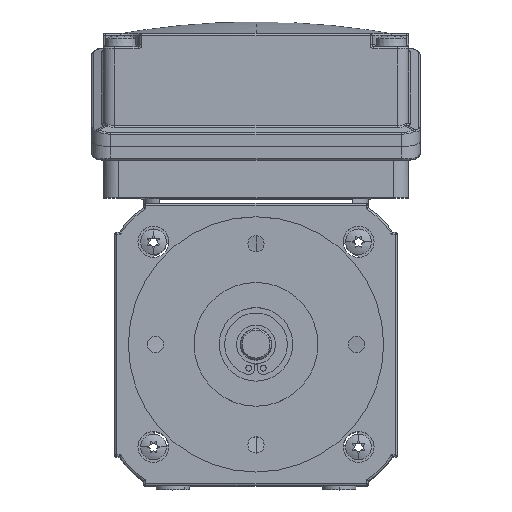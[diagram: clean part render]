
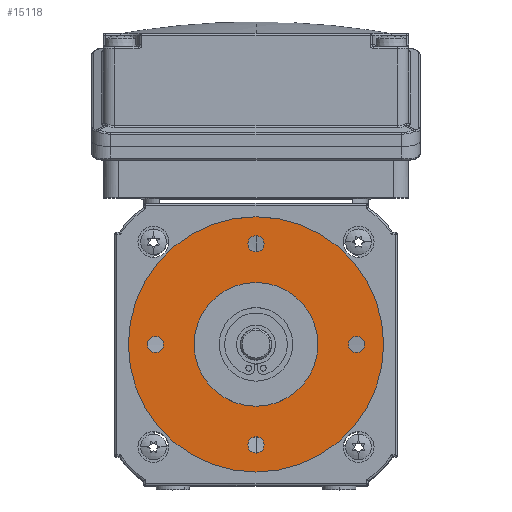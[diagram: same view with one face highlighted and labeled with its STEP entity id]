
A CAD part, top view. The second image highlights one B-rep face of the part: STEP entity #15118.
In plain terms, the highlighted planar face has unit normal (0, 0, 1).
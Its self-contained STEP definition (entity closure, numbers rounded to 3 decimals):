
#3206 = AXIS2_PLACEMENT_3D ( 'NONE', #29598, #29599, #29600 ) ;
#3601 = ORIENTED_EDGE ( 'NONE', *, *, #27813, .F. ) ;
#3603 = ORIENTED_EDGE ( 'NONE', *, *, #27755, .T. ) ;
#3604 = ORIENTED_EDGE ( 'NONE', *, *, #16355, .T. ) ;
#3606 = ORIENTED_EDGE ( 'NONE', *, *, #16374, .T. ) ;
#3608 = ORIENTED_EDGE ( 'NONE', *, *, #27773, .F. ) ;
#4960 = CARTESIAN_POINT ( 'NONE',  ( 23.9, 0., 8. ) ) ;
#4962 = CARTESIAN_POINT ( 'NONE',  ( -28.1, 0., 8. ) ) ;
#4963 = CARTESIAN_POINT ( 'NONE',  ( -23.9, 0., 8. ) ) ;
#5003 = CARTESIAN_POINT ( 'NONE',  ( 28.1, 0., 8. ) ) ;
#5014 = CARTESIAN_POINT ( 'NONE',  ( 33., 0., 8. ) ) ;
#5031 = CARTESIAN_POINT ( 'NONE',  ( 2.1, -26., 8. ) ) ;
#5032 = CARTESIAN_POINT ( 'NONE',  ( -2.1, -26., 8. ) ) ;
#5033 = CARTESIAN_POINT ( 'NONE',  ( -33., 0., 8. ) ) ;
#5037 = CARTESIAN_POINT ( 'NONE',  ( -2.1, 26., 8. ) ) ;
#5039 = CARTESIAN_POINT ( 'NONE',  ( 16., 0., 8. ) ) ;
#5040 = CARTESIAN_POINT ( 'NONE',  ( 2.1, 26., 8. ) ) ;
#5044 = CARTESIAN_POINT ( 'NONE',  ( -16., 0., 8. ) ) ;
#6144 = CARTESIAN_POINT ( 'NONE',  ( 0., 26., 8. ) ) ;
#6145 = DIRECTION ( 'NONE',  ( 0., 0., 1. ) ) ;
#6146 = DIRECTION ( 'NONE',  ( 1., 0., 0. ) ) ;
#6228 = CARTESIAN_POINT ( 'NONE',  ( -26., 0., 8. ) ) ;
#6229 = DIRECTION ( 'NONE',  ( 0., 0., 1. ) ) ;
#6230 = DIRECTION ( 'NONE',  ( 1., 0., 0. ) ) ;
#7848 = AXIS2_PLACEMENT_3D ( 'NONE', #6144, #6145, #6146 ) ;
#7861 = AXIS2_PLACEMENT_3D ( 'NONE', #6228, #6229, #6230 ) ;
#7869 = AXIS2_PLACEMENT_3D ( 'NONE', #22060, #22062, #22064 ) ;
#7876 = AXIS2_PLACEMENT_3D ( 'NONE', #22118, #22120, #22122 ) ;
#7882 = AXIS2_PLACEMENT_3D ( 'NONE', #22220, #22221, #22223 ) ;
#7885 = AXIS2_PLACEMENT_3D ( 'NONE', #22256, #22257, #22259 ) ;
#7895 = AXIS2_PLACEMENT_3D ( 'NONE', #22339, #22340, #22341 ) ;
#7916 = AXIS2_PLACEMENT_3D ( 'NONE', #22517, #22519, #22521 ) ;
#7930 = AXIS2_PLACEMENT_3D ( 'NONE', #22657, #22659, #22661 ) ;
#8128 = VERTEX_POINT ( 'NONE', #4960 ) ;
#8129 = VERTEX_POINT ( 'NONE', #4962 ) ;
#8130 = VERTEX_POINT ( 'NONE', #4963 ) ;
#8183 = VERTEX_POINT ( 'NONE', #5003 ) ;
#8198 = VERTEX_POINT ( 'NONE', #5014 ) ;
#8221 = VERTEX_POINT ( 'NONE', #5031 ) ;
#8223 = VERTEX_POINT ( 'NONE', #5032 ) ;
#8224 = VERTEX_POINT ( 'NONE', #5033 ) ;
#8228 = VERTEX_POINT ( 'NONE', #5037 ) ;
#8229 = VERTEX_POINT ( 'NONE', #5040 ) ;
#8233 = VERTEX_POINT ( 'NONE', #5039 ) ;
#8234 = VERTEX_POINT ( 'NONE', #5044 ) ;
#8421 = EDGE_LOOP ( 'NONE', ( #3601, #17995 ) ) ;
#8472 = EDGE_LOOP ( 'NONE', ( #3604, #3603 ) ) ;
#8505 = EDGE_LOOP ( 'NONE', ( #3608, #17994 ) ) ;
#8565 = EDGE_LOOP ( 'NONE', ( #17993, #17991 ) ) ;
#15118 = ADVANCED_FACE ( 'NONE', ( #36304, #36308, #36305, #36303, #36306, #36309 ), #29590, .T. ) ;
#15503 = CIRCLE ( 'NONE', #7848, 2.1 ) ;
#15543 = CIRCLE ( 'NONE', #7861, 2.1 ) ;
#15570 = CIRCLE ( 'NONE', #7869, 2.1 ) ;
#15582 = CIRCLE ( 'NONE', #7876, 16. ) ;
#15594 = CIRCLE ( 'NONE', #7882, 33. ) ;
#15602 = CIRCLE ( 'NONE', #7885, 2.1 ) ;
#15618 = CIRCLE ( 'NONE', #7895, 2.1 ) ;
#15654 = CIRCLE ( 'NONE', #7916, 2.1 ) ;
#15664 = CIRCLE ( 'NONE', #7930, 2.1 ) ;
#16355 = EDGE_CURVE ( 'NONE', #8234, #8233, #32764, .T. ) ;
#16367 = EDGE_CURVE ( 'NONE', #8223, #8221, #32768, .T. ) ;
#16374 = EDGE_CURVE ( 'NONE', #8198, #8224, #32785, .T. ) ;
#17964 = ORIENTED_EDGE ( 'NONE', *, *, #27785, .F. ) ;
#17991 = ORIENTED_EDGE ( 'NONE', *, *, #27727, .F. ) ;
#17992 = ORIENTED_EDGE ( 'NONE', *, *, #27747, .F. ) ;
#17993 = ORIENTED_EDGE ( 'NONE', *, *, #27832, .F. ) ;
#17994 = ORIENTED_EDGE ( 'NONE', *, *, #27702, .F. ) ;
#17995 = ORIENTED_EDGE ( 'NONE', *, *, #16367, .F. ) ;
#17996 = ORIENTED_EDGE ( 'NONE', *, *, #27768, .T. ) ;
#19203 = AXIS2_PLACEMENT_3D ( 'NONE', #23907, #23908, #23909 ) ;
#19205 = AXIS2_PLACEMENT_3D ( 'NONE', #23919, #23920, #23921 ) ;
#19206 = AXIS2_PLACEMENT_3D ( 'NONE', #23926, #23927, #23928 ) ;
#19560 = EDGE_LOOP ( 'NONE', ( #17996, #3606 ) ) ;
#20955 = EDGE_LOOP ( 'NONE', ( #17992, #17964 ) ) ;
#22060 = CARTESIAN_POINT ( 'NONE',  ( 26., 0., 8. ) ) ;
#22062 = DIRECTION ( 'NONE',  ( 0., 0., 1. ) ) ;
#22064 = DIRECTION ( 'NONE',  ( 1., 0., 0. ) ) ;
#22118 = CARTESIAN_POINT ( 'NONE',  ( 0., 0., 8. ) ) ;
#22120 = DIRECTION ( 'NONE',  ( 0., 0., -1. ) ) ;
#22122 = DIRECTION ( 'NONE',  ( -1., 0., 0. ) ) ;
#22220 = CARTESIAN_POINT ( 'NONE',  ( 0., 0., 8. ) ) ;
#22221 = DIRECTION ( 'NONE',  ( 0., 0., 1. ) ) ;
#22223 = DIRECTION ( 'NONE',  ( 1., 0., 0. ) ) ;
#22256 = CARTESIAN_POINT ( 'NONE',  ( 0., 26., 8. ) ) ;
#22257 = DIRECTION ( 'NONE',  ( 0., 0., 1. ) ) ;
#22259 = DIRECTION ( 'NONE',  ( 1., 0., 0. ) ) ;
#22339 = CARTESIAN_POINT ( 'NONE',  ( 26., 0., 8. ) ) ;
#22340 = DIRECTION ( 'NONE',  ( 0., 0., 1. ) ) ;
#22341 = DIRECTION ( 'NONE',  ( 1., 0., 0. ) ) ;
#22517 = CARTESIAN_POINT ( 'NONE',  ( 0., -26., 8. ) ) ;
#22519 = DIRECTION ( 'NONE',  ( 0., 0., 1. ) ) ;
#22521 = DIRECTION ( 'NONE',  ( 1., 0., 0. ) ) ;
#22657 = CARTESIAN_POINT ( 'NONE',  ( -26., 0., 8. ) ) ;
#22659 = DIRECTION ( 'NONE',  ( 0., 0., 1. ) ) ;
#22661 = DIRECTION ( 'NONE',  ( 1., 0., 0. ) ) ;
#23907 = CARTESIAN_POINT ( 'NONE',  ( 0., 0., 8. ) ) ;
#23908 = DIRECTION ( 'NONE',  ( 0., 0., -1. ) ) ;
#23909 = DIRECTION ( 'NONE',  ( -1., 0., 0. ) ) ;
#23919 = CARTESIAN_POINT ( 'NONE',  ( 0., -26., 8. ) ) ;
#23920 = DIRECTION ( 'NONE',  ( 0., 0., 1. ) ) ;
#23921 = DIRECTION ( 'NONE',  ( 1., 0., 0. ) ) ;
#23926 = CARTESIAN_POINT ( 'NONE',  ( 0., 0., 8. ) ) ;
#23927 = DIRECTION ( 'NONE',  ( 0., 0., 1. ) ) ;
#23928 = DIRECTION ( 'NONE',  ( 1., 0., 0. ) ) ;
#27702 = EDGE_CURVE ( 'NONE', #8228, #8229, #15503, .T. ) ;
#27727 = EDGE_CURVE ( 'NONE', #8129, #8130, #15543, .T. ) ;
#27747 = EDGE_CURVE ( 'NONE', #8183, #8128, #15570, .T. ) ;
#27755 = EDGE_CURVE ( 'NONE', #8233, #8234, #15582, .T. ) ;
#27768 = EDGE_CURVE ( 'NONE', #8224, #8198, #15594, .T. ) ;
#27773 = EDGE_CURVE ( 'NONE', #8229, #8228, #15602, .T. ) ;
#27785 = EDGE_CURVE ( 'NONE', #8128, #8183, #15618, .T. ) ;
#27813 = EDGE_CURVE ( 'NONE', #8221, #8223, #15654, .T. ) ;
#27832 = EDGE_CURVE ( 'NONE', #8130, #8129, #15664, .T. ) ;
#29590 = PLANE ( 'NONE',  #3206 ) ;
#29598 = CARTESIAN_POINT ( 'NONE',  ( 0., -16., 8. ) ) ;
#29599 = DIRECTION ( 'NONE',  ( 0., 0., 1. ) ) ;
#29600 = DIRECTION ( 'NONE',  ( 1., 0., 0. ) ) ;
#32764 = CIRCLE ( 'NONE', #19203, 16. ) ;
#32768 = CIRCLE ( 'NONE', #19205, 2.1 ) ;
#32785 = CIRCLE ( 'NONE', #19206, 33. ) ;
#36303 = FACE_BOUND ( 'NONE', #8421, .T. ) ;
#36304 = FACE_BOUND ( 'NONE', #8505, .T. ) ;
#36305 = FACE_BOUND ( 'NONE', #20955, .T. ) ;
#36306 = FACE_BOUND ( 'NONE', #8472, .T. ) ;
#36308 = FACE_BOUND ( 'NONE', #8565, .T. ) ;
#36309 = FACE_OUTER_BOUND ( 'NONE', #19560, .T. ) ;
